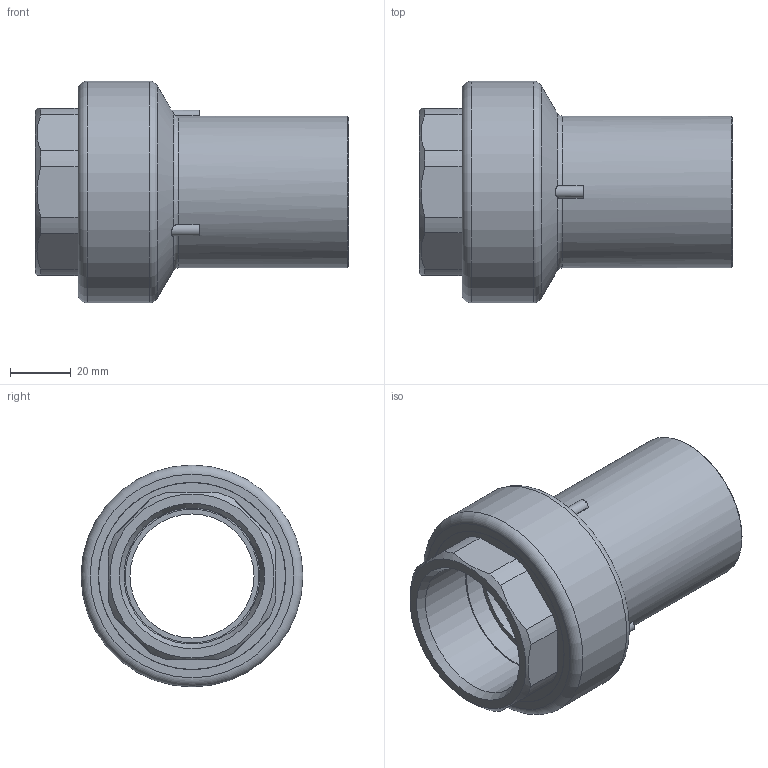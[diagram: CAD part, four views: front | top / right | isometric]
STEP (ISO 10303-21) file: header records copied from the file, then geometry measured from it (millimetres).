
FILE_DESCRIPTION(/* description */ ('Unknown'),/* implementation_level */ '2;1');
FILE_NAME(/* name */ 'RTOFP050C',/* time_stamp */ '2021-03-01T15:34:46+01:00',/* author */ ('Unknown'),/* organization */ ('Unknown'),/* preprocessor_version */ 'ST-DEVELOPER v16.7',/* originating_system */ 'Solid Edge',/* authorisation */ 'Unknown');
FILE_SCHEMA (('AUTOMOTIVE_DESIGN {1 0 10303 214 3 1 1}'));
Length unit declared in the file: millimetre
Products named in the file (3): RTOFP050C; Parte PE 050; IOF050C
Assembly tree (2 placements, depth 2):
  RTOFP050C
    Parte PE 050
    IOF050C
Bounding box: 103 x 73 x 73 mm (x, y, z)
Volume: 129695.9 mm3; surface area: 57146.7 mm2
Topology: 2 solids, 2 shells, 166 faces, 408 edges, 263 vertices
Faces by surface type: plane 96, cylinder 40, bspline 15, torus 11, cone 4
Full cylindrical faces by diameter (mm): 40.8 x1, 44 x3, 44.845 x1, 48.5 x2, 50 x1, 55.5 x4, 57.3 x2, 61.5 x8, 73 x1
Entity records: 5518 total; most frequent: CARTESIAN_POINT 1167, DIRECTION 808, ORIENTED_EDGE 740, EDGE_CURVE 370, AXIS2_PLACEMENT_3D 322, VERTEX_POINT 254, EDGE_LOOP 216, FACE_BOUND 216
